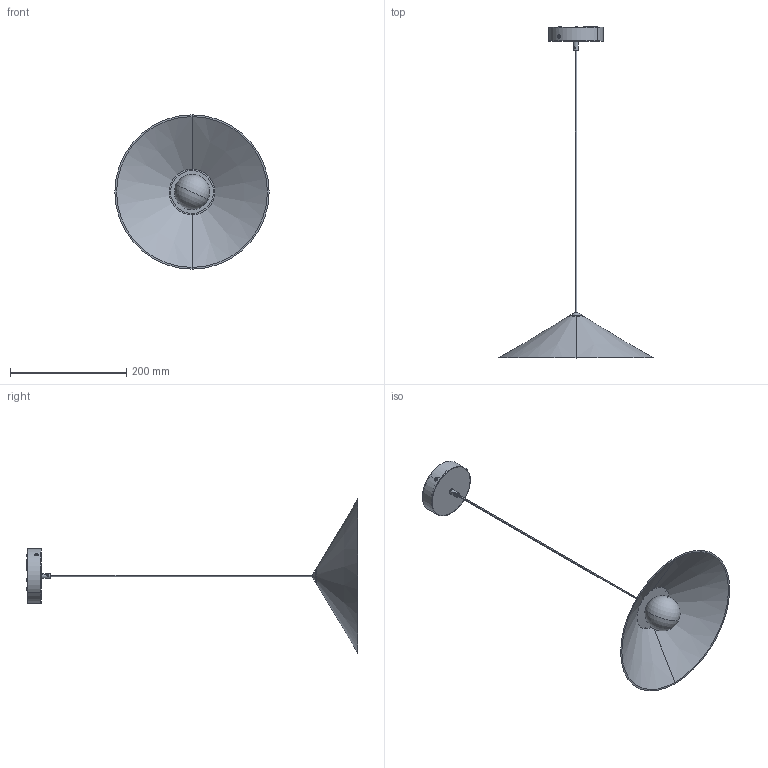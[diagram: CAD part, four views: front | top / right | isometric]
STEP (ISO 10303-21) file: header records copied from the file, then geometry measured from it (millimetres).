
FILE_DESCRIPTION (( 'STEP AP214' ), '1' );
FILE_NAME ('BELL_260_Sup_STEP.STEP', '2024-05-29T13:24:32', ( '' ), ( '' ), 'SwSTEP 2.0', 'SolidWorks 2024', '' );
FILE_SCHEMA (( 'AUTOMOTIVE_DESIGN' ));
Length unit declared in the file: millimetre
Products named in the file (1): BELL_260_Sup_STEP
Bounding box: 265 x 570.2 x 265 mm (x, y, z)
Volume: 154266.2 mm3; surface area: 213799 mm2
Topology: 12 solids, 12 shells, 413 faces, 986 edges, 625 vertices
Faces by surface type: cylinder 145, plane 138, torus 46, cone 40, bspline 40, sphere 4
Entity records: 18345 total; most frequent: CARTESIAN_POINT 8941, ORIENTED_EDGE 1952, DIRECTION 1886, EDGE_CURVE 976, AXIS2_PLACEMENT_3D 735, VERTEX_POINT 619, EDGE_LOOP 487, LINE 416
